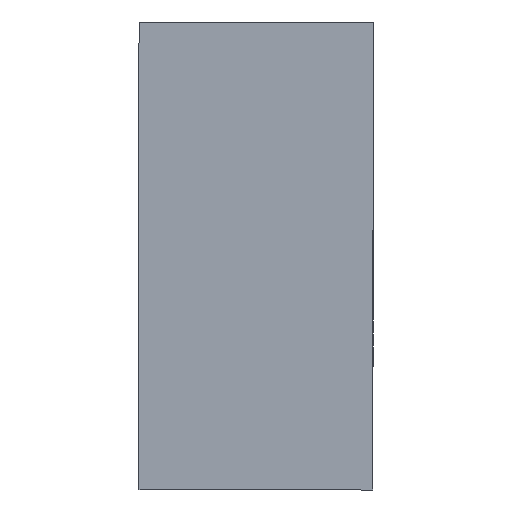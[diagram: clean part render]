
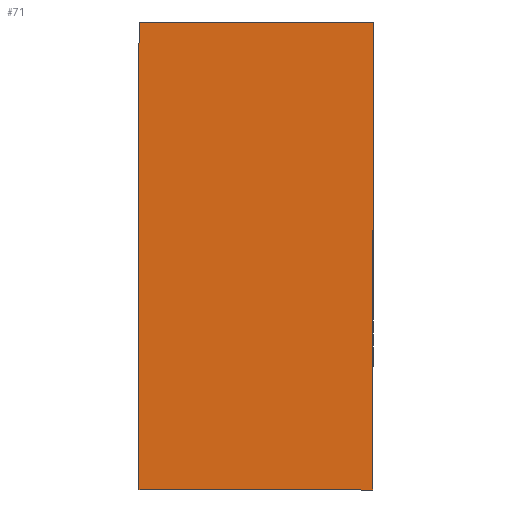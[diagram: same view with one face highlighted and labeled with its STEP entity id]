
A CAD part, left-side view. The second image highlights one B-rep face of the part: STEP entity #71.
In plain terms, the highlighted planar face has unit normal (-1, 0, 0).
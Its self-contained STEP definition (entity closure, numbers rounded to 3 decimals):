
#15 = CARTESIAN_POINT ( 'NONE',  ( -226., 0., 24. ) ) ;
#31 = DIRECTION ( 'NONE',  ( 0., 0., 1. ) ) ;
#44 = DIRECTION ( 'NONE',  ( 1., 0., 0. ) ) ;
#48 = CARTESIAN_POINT ( 'NONE',  ( -226., 24., 24. ) ) ;
#54 = ORIENTED_EDGE ( 'NONE', *, *, #265, .T. ) ;
#55 = EDGE_CURVE ( 'NONE', #196, #295, #147, .T. ) ;
#57 = ORIENTED_EDGE ( 'NONE', *, *, #212, .F. ) ;
#61 = CARTESIAN_POINT ( 'NONE',  ( -226., 0., -24. ) ) ;
#64 = DIRECTION ( 'NONE',  ( 0., 0., 1. ) ) ;
#71 = ADVANCED_FACE ( 'NONE', ( #192 ), #178, .F. ) ;
#78 = LINE ( 'NONE', #15, #150 ) ;
#86 = VERTEX_POINT ( 'NONE', #203 ) ;
#111 = AXIS2_PLACEMENT_3D ( 'NONE', #258, #44, #127 ) ;
#127 = DIRECTION ( 'NONE',  ( 0., 0., -1. ) ) ;
#134 = DIRECTION ( 'NONE',  ( 0., -1., 0. ) ) ;
#146 = VERTEX_POINT ( 'NONE', #61 ) ;
#147 = LINE ( 'NONE', #241, #232 ) ;
#150 = VECTOR ( 'NONE', #64, 1000. ) ;
#151 = CARTESIAN_POINT ( 'NONE',  ( -226., 24., -24. ) ) ;
#161 = VECTOR ( 'NONE', #134, 1000. ) ;
#163 = EDGE_CURVE ( 'NONE', #146, #86, #78, .T. ) ;
#170 = ORIENTED_EDGE ( 'NONE', *, *, #55, .F. ) ;
#178 = PLANE ( 'NONE',  #111 ) ;
#183 = DIRECTION ( 'NONE',  ( 0., -1., 0. ) ) ;
#192 = FACE_OUTER_BOUND ( 'NONE', #245, .T. ) ;
#196 = VERTEX_POINT ( 'NONE', #151 ) ;
#203 = CARTESIAN_POINT ( 'NONE',  ( -226., 0., 24. ) ) ;
#212 = EDGE_CURVE ( 'NONE', #295, #86, #252, .T. ) ;
#222 = ORIENTED_EDGE ( 'NONE', *, *, #163, .T. ) ;
#226 = CARTESIAN_POINT ( 'NONE',  ( -226., 24., 24. ) ) ;
#231 = CARTESIAN_POINT ( 'NONE',  ( -226., 24., -24. ) ) ;
#232 = VECTOR ( 'NONE', #31, 1000. ) ;
#241 = CARTESIAN_POINT ( 'NONE',  ( -226., 24., 24. ) ) ;
#245 = EDGE_LOOP ( 'NONE', ( #222, #57, #170, #54 ) ) ;
#252 = LINE ( 'NONE', #226, #271 ) ;
#258 = CARTESIAN_POINT ( 'NONE',  ( -226., 24., 24. ) ) ;
#265 = EDGE_CURVE ( 'NONE', #196, #146, #282, .T. ) ;
#271 = VECTOR ( 'NONE', #183, 1000. ) ;
#282 = LINE ( 'NONE', #231, #161 ) ;
#295 = VERTEX_POINT ( 'NONE', #48 ) ;
